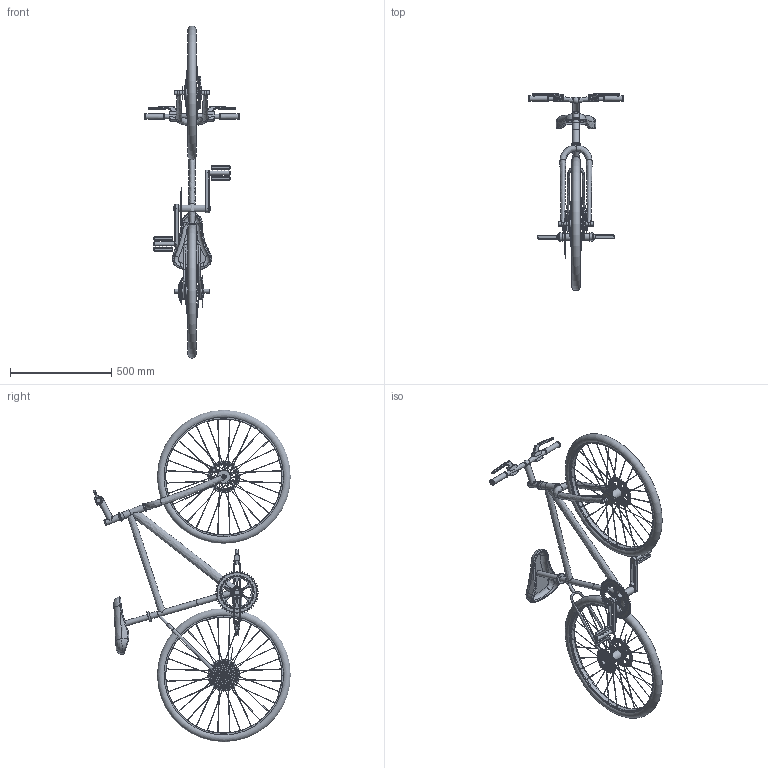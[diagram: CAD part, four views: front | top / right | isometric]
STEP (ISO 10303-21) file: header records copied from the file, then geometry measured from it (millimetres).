
FILE_DESCRIPTION(/* description */ (''),/* implementation_level */ '2;1');
FILE_NAME(/* name */ 'D:\100-HP用\車両\自転車\Assembly.stp',/* time_stamp */ '2022-04-19T13:57:01+09:00',/* author */ ('D'),/* organization */ (''),/* preprocessor_version */ 'ST-DEVELOPER v18',/* originating_system */ 'Autodesk Inventor 2020',/* authorisation */ '');
FILE_SCHEMA (('AUTOMOTIVE_DESIGN { 1 0 10303 214 3 1 1 }'));
Length unit declared in the file: millimetre
Products named in the file (13): Assembly; Part1; Part2; Part1_1; Part4; Part5; Part6; Part7; Part8; Part9; Part10; Part11; Part12
Assembly tree (12 placements, depth 2):
  Assembly
    Part1
    Part2
    Part1_1
    Part4
    Part5
    Part6
    Part7
    Part8
    Part9
    Part10
    Part11
    Part12
Bounding box: 470 x 974.42 x 1639.13 mm (x, y, z)
Volume: 9956513.4 mm3; surface area: 1552168.6 mm2
Topology: 12 solids, 12 shells, 1791 faces, 5537 edges, 3637 vertices
Faces by surface type: cylinder 1341, plane 323, bspline 66, torus 35, cone 14, sphere 12
Full cylindrical faces by diameter (mm): 2 x128, 8 x80, 10 x8, 15 x1, 20 x17, 25 x2, 26 x2, 28 x1, 30 x5, 33.5 x1, 34 x3, 43.5 x1, 44 x1, 50 x2, 52 x1, 63 x3, 70 x4, 157 x2, 574 x2
Entity records: 75851 total; most frequent: CARTESIAN_POINT 22863, DIRECTION 11745, ORIENTED_EDGE 11066, EDGE_CURVE 5533, AXIS2_PLACEMENT_3D 4855, VERTEX_POINT 3637, CIRCLE 2706, EDGE_LOOP 2170
